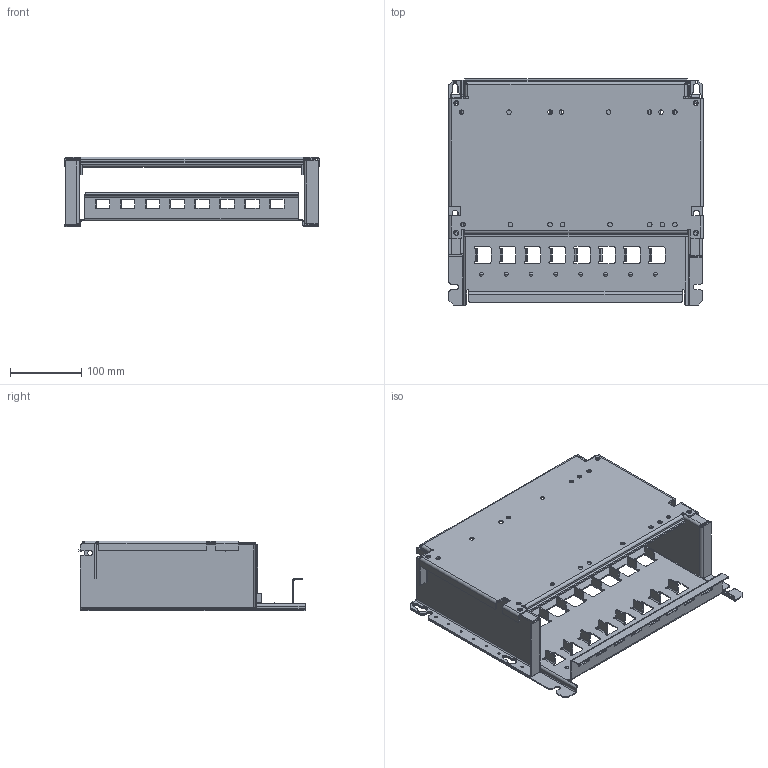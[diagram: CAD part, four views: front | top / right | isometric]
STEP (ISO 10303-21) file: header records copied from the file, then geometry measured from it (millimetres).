
FILE_DESCRIPTION((''),'2;1');
FILE_NAME('8SLOT_A7_ASM','2009-09-21T',('ABSchul1'),('Rockwell Automation'),'PRO/ENGINEER BY PARAMETRIC TECHNOLOGY CORPORATION, 2004320','PRO/ENGINEER BY PARAMETRIC TECHNOLOGY CORPORATION, 2004320','');
FILE_SCHEMA(('CONFIG_CONTROL_DESIGN'));
Length unit declared in the file: millimetre
Products named in the file (5): 10000026726; 10000026727; 10000026728; 10000026736; 8SLOT_A7_ASM
Assembly tree (4 placements, depth 2):
  8SLOT_A7_ASM
    10000026726
    10000026727
    10000026728
    10000026736
Bounding box: 357.2 x 317.3 x 97.89 mm (x, y, z)
Surface area: 560114.3 mm2 (no closed solid volume)
Topology: 0 solids, 4 shells, 1395 faces, 3635 edges, 2216 vertices
Faces by surface type: plane 725, cylinder 600, sphere 64, bspline 6
Entity records: 42955 total; most frequent: DIRECTION 7645, CARTESIAN_POINT 7618, ORIENTED_EDGE 7142, EDGE_CURVE 3571, AXIS2_PLACEMENT_3D 2692, VECTOR 2261, LINE 2261, VERTEX_POINT 2216
